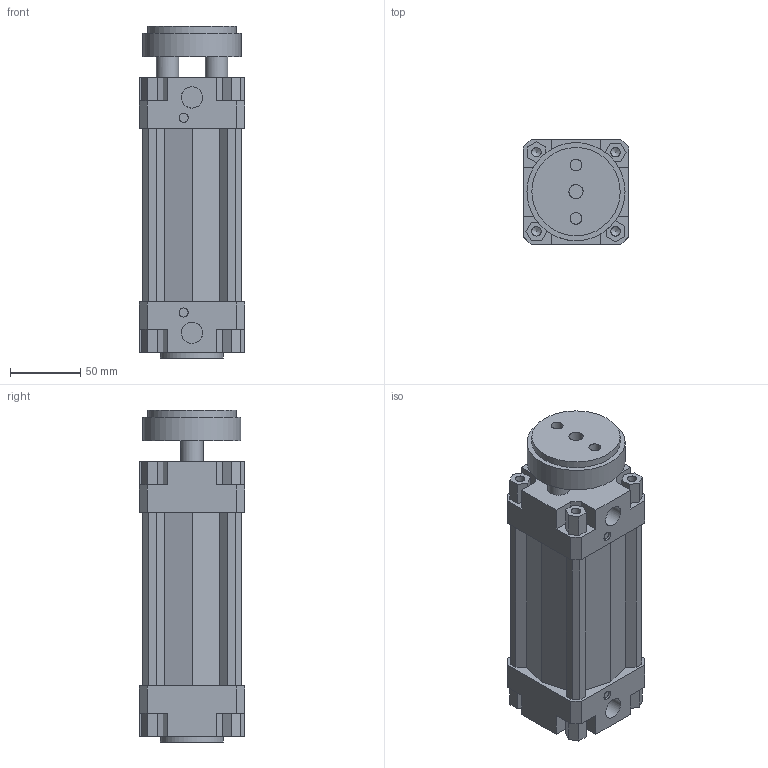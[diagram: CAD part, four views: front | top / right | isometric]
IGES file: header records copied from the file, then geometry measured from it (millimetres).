
Global section: file name: 132#_063_0075_01; native system: Autodesk Inventor 2014; preprocessor: unknown; author: A. Manieri; date: 20161006.155911; units: millimetre
Bounding box: 75 x 75 x 237 mm (x, y, z)
Volume: 789674 mm3; surface area: 157493.2 mm2
Topology: 2 solids, 2 shells, 180 faces, 491 edges, 335 vertices
Faces by surface type: bspline 180
